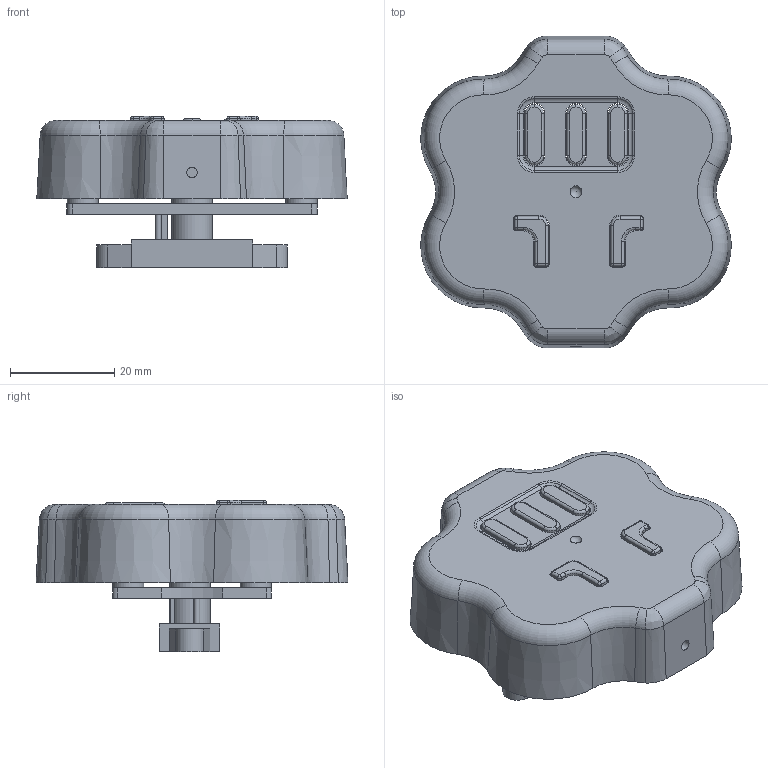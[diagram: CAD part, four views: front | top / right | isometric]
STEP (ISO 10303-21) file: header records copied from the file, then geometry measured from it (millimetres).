
FILE_DESCRIPTION(/* description */ (''),/* implementation_level */ '2;1');
FILE_NAME(/* name */ '教师组样题9.stp',/* time_stamp */ '2023-04-15T10:53:32+08:00',/* author */ (''),/* organization */ (''),/* preprocessor_version */ 'ST-DEVELOPER v16.7',/* originating_system */ 'SIEMENS PLM Software NX 12.0',/* authorisation */ '');
FILE_SCHEMA (('AUTOMOTIVE_DESIGN { 1 0 10303 214 3 1 1 1 }'));
Length unit declared in the file: millimetre
Products named in the file (1): 教师组样题9_stp
Bounding box: 59.59 x 59.9 x 29.07 mm (x, y, z)
Volume: 16248.9 mm3; surface area: 17306.2 mm2
Topology: 8 solids, 8 shells, 317 faces, 785 edges, 486 vertices
Faces by surface type: cylinder 104, plane 102, torus 60, cone 37, sphere 9, bspline 5
Full cylindrical faces by diameter (mm): 1.142 x1, 2 x1, 2.91 x2, 3 x4, 4 x4, 6 x4, 7.767 x1, 17.767 x1
Entity records: 9577 total; most frequent: CARTESIAN_POINT 1831, DIRECTION 1758, ORIENTED_EDGE 1496, EDGE_CURVE 748, AXIS2_PLACEMENT_3D 714, VERTEX_POINT 478, CIRCLE 398, EDGE_LOOP 374
